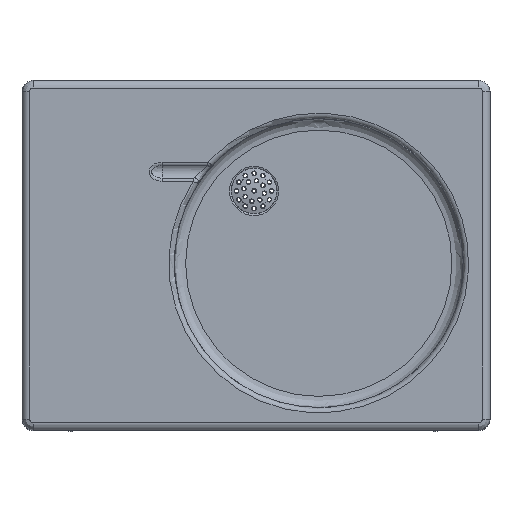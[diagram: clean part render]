
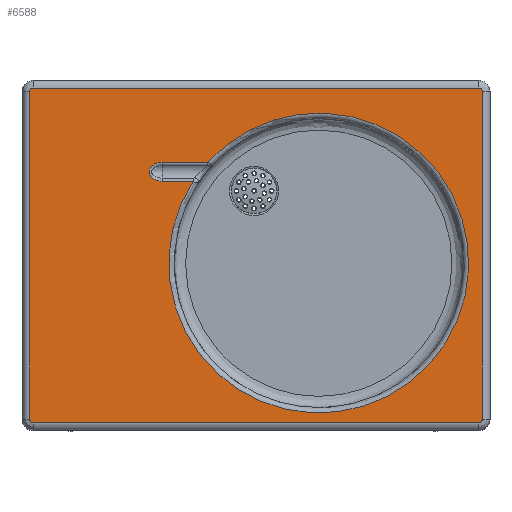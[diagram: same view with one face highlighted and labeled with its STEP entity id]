
A CAD part, top view. The second image highlights one B-rep face of the part: STEP entity #6588.
In plain terms, the highlighted planar face has unit normal (0, 0, 1).
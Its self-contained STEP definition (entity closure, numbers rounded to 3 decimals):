
#3879=CARTESIAN_POINT('',(187.873,-110.566,185.0));
#3880=VERTEX_POINT('',#3879);
#3905=CARTESIAN_POINT('',(207.277,-85.434,185.0));
#3906=VERTEX_POINT('',#3905);
#3907=CARTESIAN_POINT('',(353.0,-218.0,185.0));
#3908=DIRECTION('',(0.0,0.0,1.0));
#3909=DIRECTION('',(0.0,-1.0,0.0));
#3910=AXIS2_PLACEMENT_3D('',#3907,#3908,#3909);
#3911=CIRCLE('',#3910,197.);
#3912=EDGE_CURVE('',#3880,#3906,#3911,.T.);
#4178=CARTESIAN_POINT('',(147.123,-110.566,185.0));
#4179=VERTEX_POINT('',#4178);
#4187=CARTESIAN_POINT('',(147.123,-110.566,185.0));
#4188=DIRECTION('',(1.0,0.0,0.0));
#4189=VECTOR('',#4188,40.75);
#4190=LINE('',#4187,#4189);
#4191=EDGE_CURVE('',#4179,#3880,#4190,.T.);
#5398=CARTESIAN_POINT('',(147.123,-85.434,185.0));
#5399=VERTEX_POINT('',#5398);
#5407=CARTESIAN_POINT('',(147.123,-85.434,185.0));
#5408=CARTESIAN_POINT('',(146.291,-85.434,185.0));
#5409=CARTESIAN_POINT('',(145.178,-85.497,185.));
#5410=CARTESIAN_POINT('',(143.521,-85.719,185.));
#5411=CARTESIAN_POINT('',(142.156,-85.983,185.0));
#5412=CARTESIAN_POINT('',(140.638,-86.4,185.));
#5413=CARTESIAN_POINT('',(139.412,-86.837,185.));
#5414=CARTESIAN_POINT('',(138.041,-87.414,185.));
#5415=CARTESIAN_POINT('',(136.969,-87.965,185.));
#5416=CARTESIAN_POINT('',(135.705,-88.743,185.));
#5417=CARTESIAN_POINT('',(134.635,-89.497,185.));
#5418=CARTESIAN_POINT('',(133.648,-90.357,185.));
#5419=CARTESIAN_POINT('',(132.603,-91.419,185.));
#5420=CARTESIAN_POINT('',(131.787,-92.428,185.));
#5421=CARTESIAN_POINT('',(131.022,-93.709,185.));
#5422=CARTESIAN_POINT('',(130.553,-94.72,185.));
#5423=CARTESIAN_POINT('',(130.231,-95.687,185.));
#5424=CARTESIAN_POINT('',(130.074,-96.415,185.));
#5425=CARTESIAN_POINT('',(129.964,-97.149,185.));
#5426=CARTESIAN_POINT('',(129.907,-97.981,185.));
#5427=CARTESIAN_POINT('',(129.972,-99.005,185.));
#5428=CARTESIAN_POINT('',(130.103,-99.733,185.));
#5429=CARTESIAN_POINT('',(130.279,-100.454,185.));
#5430=CARTESIAN_POINT('',(130.541,-101.251,185.));
#5431=CARTESIAN_POINT('',(130.968,-102.177,185.));
#5432=CARTESIAN_POINT('',(131.337,-102.82,185.));
#5433=CARTESIAN_POINT('',(131.94,-103.759,185.));
#5434=CARTESIAN_POINT('',(132.937,-104.998,185.0));
#5435=CARTESIAN_POINT('',(134.31,-106.241,185.0));
#5436=CARTESIAN_POINT('',(136.114,-107.569,185.));
#5437=CARTESIAN_POINT('',(137.595,-108.386,185.));
#5438=CARTESIAN_POINT('',(139.295,-109.118,185.));
#5439=CARTESIAN_POINT('',(140.253,-109.468,185.));
#5440=CARTESIAN_POINT('',(141.324,-109.788,185.));
#5441=CARTESIAN_POINT('',(142.409,-110.066,185.));
#5442=CARTESIAN_POINT('',(144.336,-110.439,185.));
#5443=CARTESIAN_POINT('',(146.014,-110.566,185.0));
#5444=CARTESIAN_POINT('',(147.123,-110.566,185.0));
#5445=B_SPLINE_CURVE_WITH_KNOTS('',3,(#5407,#5408,#5409,#5410,#5411,#5412,#5413,#5414,#5415,#5416,#5417,#5418,#5419,#5420,#5421,#5422,#5423,#5424,#5425,#5426,#5427,#5428,#5429,#5430,#5431,#5432,#5433,#5434,#5435,#5436,#5437,#5438,#5439,#5440,#5441,#5442,#5443,#5444),.UNSPECIFIED.,.F.,.U.,(4,1,1,1,1,1,1,1,1,1,1,1,1,1,1,1,1,1,1,1,1,1,1,1,1,1,1,1,1,1,1,1,1,1,1,4),(0.0,0.25,0.333,0.499,0.666,0.804,0.888,1.109,1.165,1.331,1.498,1.553,1.775,1.886,1.997,2.108,2.191,2.219,2.33,2.441,2.524,2.552,2.663,2.774,2.857,2.885,3.107,3.328,3.439,3.772,3.828,3.994,4.077,4.161,4.327,4.66),.UNSPECIFIED.);
#5446=EDGE_CURVE('',#5399,#4179,#5445,.T.);
#5507=CARTESIAN_POINT('',(207.277,-85.434,185.0));
#5508=DIRECTION('',(-1.0,0.0,0.0));
#5509=VECTOR('',#5508,60.153);
#5510=LINE('',#5507,#5509);
#5511=EDGE_CURVE('',#3906,#5399,#5510,.T.);
#6507=CARTESIAN_POINT('',(270.5,-208.,185.0));
#6508=DIRECTION('',(0.0,0.0,1.0));
#6509=DIRECTION('',(1.0,0.0,0.0));
#6510=AXIS2_PLACEMENT_3D('',#6507,#6508,#6509);
#6511=PLANE('',#6510);
#6512=CARTESIAN_POINT('',(563.0,-428.,185.0));
#6513=VERTEX_POINT('',#6512);
#6514=CARTESIAN_POINT('',(-22.,-428.0,185.0));
#6515=VERTEX_POINT('',#6514);
#6516=CARTESIAN_POINT('',(563.0,-428.,185.0));
#6517=DIRECTION('',(-1.0,0.0,0.0));
#6518=VECTOR('',#6517,585.);
#6519=LINE('',#6516,#6518);
#6520=EDGE_CURVE('',#6513,#6515,#6519,.T.);
#6521=ORIENTED_EDGE('',*,*,#6520,.F.);
#6522=CARTESIAN_POINT('',(568.0,-423.,185.0));
#6523=VERTEX_POINT('',#6522);
#6524=CARTESIAN_POINT('',(563.0,-423.,185.0));
#6525=DIRECTION('',(0.0,0.0,-1.));
#6526=DIRECTION('',(0.707,-0.707,0.0));
#6527=AXIS2_PLACEMENT_3D('',#6524,#6525,#6526);
#6528=CIRCLE('',#6527,5.);
#6529=EDGE_CURVE('',#6523,#6513,#6528,.T.);
#6530=ORIENTED_EDGE('',*,*,#6529,.F.);
#6531=CARTESIAN_POINT('',(568.0,7.,185.0));
#6532=VERTEX_POINT('',#6531);
#6533=CARTESIAN_POINT('',(568.0,7.,185.0));
#6534=DIRECTION('',(0.0,-1.0,0.0));
#6535=VECTOR('',#6534,430.);
#6536=LINE('',#6533,#6535);
#6537=EDGE_CURVE('',#6532,#6523,#6536,.T.);
#6538=ORIENTED_EDGE('',*,*,#6537,.F.);
#6539=CARTESIAN_POINT('',(563.0,12.,185.0));
#6540=VERTEX_POINT('',#6539);
#6541=CARTESIAN_POINT('',(563.0,7.,185.0));
#6542=DIRECTION('',(0.0,0.0,-1.));
#6543=DIRECTION('',(0.707,0.707,0.0));
#6544=AXIS2_PLACEMENT_3D('',#6541,#6542,#6543);
#6545=CIRCLE('',#6544,5.0);
#6546=EDGE_CURVE('',#6540,#6532,#6545,.T.);
#6547=ORIENTED_EDGE('',*,*,#6546,.F.);
#6548=CARTESIAN_POINT('',(-22.0,12.,185.0));
#6549=VERTEX_POINT('',#6548);
#6550=CARTESIAN_POINT('',(-22.0,12.,185.0));
#6551=DIRECTION('',(1.0,0.0,0.0));
#6552=VECTOR('',#6551,585.0);
#6553=LINE('',#6550,#6552);
#6554=EDGE_CURVE('',#6549,#6540,#6553,.T.);
#6555=ORIENTED_EDGE('',*,*,#6554,.F.);
#6556=CARTESIAN_POINT('',(-27.0,7.,185.0));
#6557=VERTEX_POINT('',#6556);
#6558=CARTESIAN_POINT('',(-22.0,7.,185.0));
#6559=DIRECTION('',(0.0,0.0,-1.));
#6560=DIRECTION('',(-0.707,0.707,0.0));
#6561=AXIS2_PLACEMENT_3D('',#6558,#6559,#6560);
#6562=CIRCLE('',#6561,5.);
#6563=EDGE_CURVE('',#6557,#6549,#6562,.T.);
#6564=ORIENTED_EDGE('',*,*,#6563,.F.);
#6565=CARTESIAN_POINT('',(-27.,-423.0,185.0));
#6566=VERTEX_POINT('',#6565);
#6567=CARTESIAN_POINT('',(-27.,-423.0,185.0));
#6568=DIRECTION('',(0.0,1.0,0.0));
#6569=VECTOR('',#6568,430.0);
#6570=LINE('',#6567,#6569);
#6571=EDGE_CURVE('',#6566,#6557,#6570,.T.);
#6572=ORIENTED_EDGE('',*,*,#6571,.F.);
#6573=CARTESIAN_POINT('',(-22.,-423.0,185.0));
#6574=DIRECTION('',(0.0,0.0,-1.0));
#6575=DIRECTION('',(-0.707,-0.707,0.0));
#6576=AXIS2_PLACEMENT_3D('',#6573,#6574,#6575);
#6577=CIRCLE('',#6576,5.0);
#6578=EDGE_CURVE('',#6515,#6566,#6577,.T.);
#6579=ORIENTED_EDGE('',*,*,#6578,.F.);
#6580=EDGE_LOOP('',(#6521,#6530,#6538,#6547,#6555,#6564,#6572,#6579));
#6581=FACE_OUTER_BOUND('',#6580,.T.);
#6582=ORIENTED_EDGE('',*,*,#3912,.F.);
#6583=ORIENTED_EDGE('',*,*,#4191,.F.);
#6584=ORIENTED_EDGE('',*,*,#5446,.F.);
#6585=ORIENTED_EDGE('',*,*,#5511,.F.);
#6586=EDGE_LOOP('',(#6582,#6583,#6584,#6585));
#6587=FACE_BOUND('',#6586,.T.);
#6588=ADVANCED_FACE('',(#6581,#6587),#6511,.T.);
